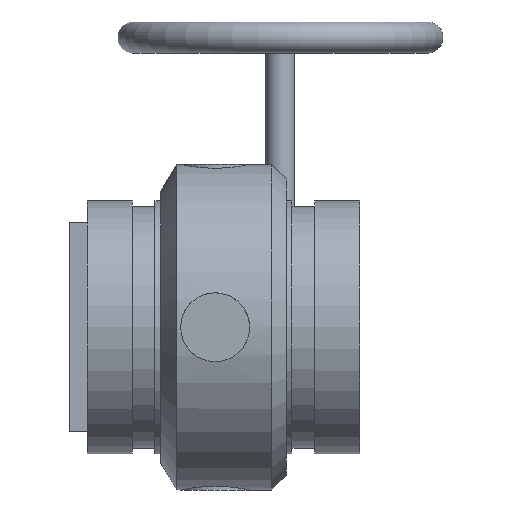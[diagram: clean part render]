
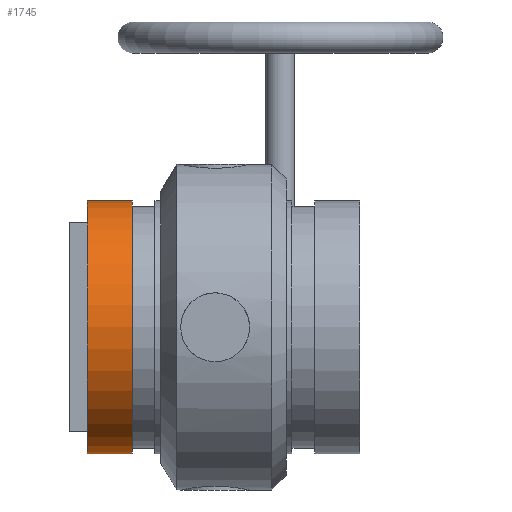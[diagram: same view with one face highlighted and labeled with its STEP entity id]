
A CAD part, front view. The second image highlights one B-rep face of the part: STEP entity #1745.
In plain terms, the highlighted cylindrical face has radius 44.45 mm (diameter 88.9 mm), a full revolution.
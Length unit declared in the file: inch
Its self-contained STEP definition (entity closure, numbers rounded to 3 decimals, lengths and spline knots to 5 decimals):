
#69=CYLINDRICAL_SURFACE('',#1936,1.75);
#173=CIRCLE('',#1934,1.75);
#174=CIRCLE('',#1935,1.75);
#175=CIRCLE('',#1937,1.75);
#176=CIRCLE('',#1938,1.75);
#277=FACE_OUTER_BOUND('',#387,.T.);
#387=EDGE_LOOP('',(#1421,#1422,#1423,#1424,#1425,#1426));
#515=LINE('',#3196,#628);
#628=VECTOR('',#2398,1.75);
#776=VERTEX_POINT('',#3187);
#777=VERTEX_POINT('',#3188);
#778=VERTEX_POINT('',#3192);
#779=VERTEX_POINT('',#3193);
#1004=EDGE_CURVE('',#776,#777,#173,.T.);
#1005=EDGE_CURVE('',#777,#776,#174,.T.);
#1006=EDGE_CURVE('',#778,#779,#175,.T.);
#1007=EDGE_CURVE('',#779,#778,#176,.T.);
#1008=EDGE_CURVE('',#779,#777,#515,.T.);
#1421=ORIENTED_EDGE('',*,*,#1006,.F.);
#1422=ORIENTED_EDGE('',*,*,#1007,.F.);
#1423=ORIENTED_EDGE('',*,*,#1008,.T.);
#1424=ORIENTED_EDGE('',*,*,#1005,.T.);
#1425=ORIENTED_EDGE('',*,*,#1004,.T.);
#1426=ORIENTED_EDGE('',*,*,#1008,.F.);
#1745=ADVANCED_FACE('',(#277),#69,.T.);
#1934=AXIS2_PLACEMENT_3D('',#3189,#2388,#2389);
#1935=AXIS2_PLACEMENT_3D('',#3190,#2390,#2391);
#1936=AXIS2_PLACEMENT_3D('',#3191,#2392,#2393);
#1937=AXIS2_PLACEMENT_3D('',#3194,#2394,#2395);
#1938=AXIS2_PLACEMENT_3D('',#3195,#2396,#2397);
#2388=DIRECTION('center_axis',(1.,0.,0.));
#2389=DIRECTION('ref_axis',(0.,0.,-1.));
#2390=DIRECTION('center_axis',(1.,0.,0.));
#2391=DIRECTION('ref_axis',(0.,0.,-1.));
#2392=DIRECTION('center_axis',(1.,0.,0.));
#2393=DIRECTION('ref_axis',(0.,1.,0.));
#2394=DIRECTION('center_axis',(1.,0.,0.));
#2395=DIRECTION('ref_axis',(0.,0.,-1.));
#2396=DIRECTION('center_axis',(1.,0.,0.));
#2397=DIRECTION('ref_axis',(0.,0.,-1.));
#2398=DIRECTION('',(-1.,0.,0.));
#3187=CARTESIAN_POINT('',(-1.77,1.75,0.));
#3188=CARTESIAN_POINT('',(-1.77,-1.75,0.));
#3189=CARTESIAN_POINT('Origin',(-1.77,0.,0.));
#3190=CARTESIAN_POINT('Origin',(-1.77,0.,0.));
#3191=CARTESIAN_POINT('Origin',(-1.4575,0.,0.));
#3192=CARTESIAN_POINT('',(-1.145,1.75,0.));
#3193=CARTESIAN_POINT('',(-1.145,-1.75,0.));
#3194=CARTESIAN_POINT('Origin',(-1.145,0.,0.));
#3195=CARTESIAN_POINT('Origin',(-1.145,0.,0.));
#3196=CARTESIAN_POINT('',(-1.4575,-1.75,0.));
